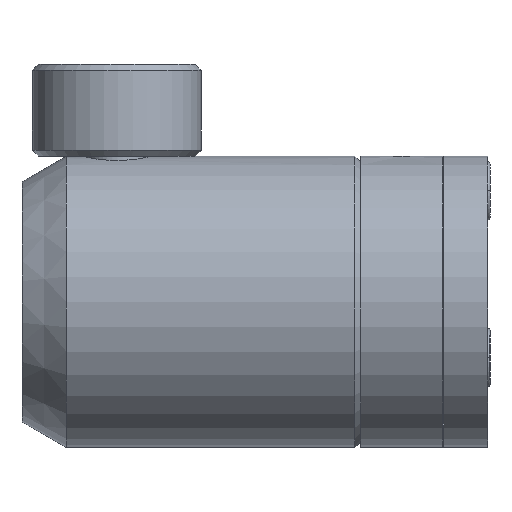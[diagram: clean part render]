
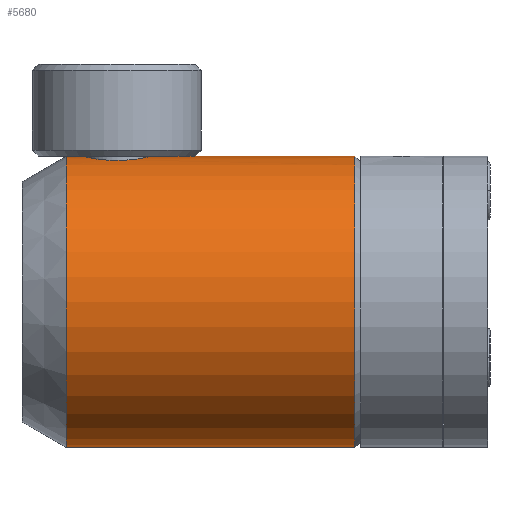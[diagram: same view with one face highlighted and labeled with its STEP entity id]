
A CAD part, left-side view. The second image highlights one B-rep face of the part: STEP entity #5680.
In plain terms, the highlighted cylindrical face has radius 12.497 mm (diameter 24.994 mm), a partial arc.
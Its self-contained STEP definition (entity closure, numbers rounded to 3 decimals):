
#3619=DIRECTION('',(0.,1.,0.));
#3620=VECTOR('',#3619,17.402);
#3621=CARTESIAN_POINT('',(-28.909,-2.492,
23.27));
#3622=LINE('',#3621,#3620);
#3623=CARTESIAN_POINT('',(-28.909,14.91,23.27));
#3655=DIRECTION('',(0.,-1.,0.));
#3656=VECTOR('',#3655,24.72);
#3657=CARTESIAN_POINT('',(-28.909,22.228,
-1.723));
#3658=LINE('',#3657,#3656);
#3667=CARTESIAN_POINT('',(-28.909,-2.492,
10.773));
#3668=DIRECTION('',(0.,1.,0.));
#3669=DIRECTION('',(0.,0.,-1.));
#3670=AXIS2_PLACEMENT_3D('',#3667,#3668,#3669);
#3672=DIRECTION('',(0.,-1.,0.));
#3673=VECTOR('',#3672,1.318);
#3674=CARTESIAN_POINT('',(-28.909,22.228,23.27));
#3675=LINE('',#3674,#3673);
#3676=CARTESIAN_POINT('',(-28.909,20.91,23.27));
#3677=CARTESIAN_POINT('',(-29.104,20.91,23.27));
#3678=CARTESIAN_POINT('',(-29.489,20.872,23.261));
#3679=CARTESIAN_POINT('',(-30.059,20.701,23.221));
#3680=CARTESIAN_POINT('',(-30.583,20.422,23.161));
#3681=CARTESIAN_POINT('',(-31.046,20.042,23.089));
#3682=CARTESIAN_POINT('',(-31.422,19.583,23.016));
#3683=CARTESIAN_POINT('',(-31.702,19.056,22.955));
#3684=CARTESIAN_POINT('',(-31.871,18.489,22.914));
#3685=CARTESIAN_POINT('',(-31.909,18.105,22.905));
#3686=CARTESIAN_POINT('',(-31.909,17.91,22.905));
#3688=CARTESIAN_POINT('',(-31.909,17.91,22.905));
#3689=CARTESIAN_POINT('',(-31.909,17.714,22.905));
#3690=CARTESIAN_POINT('',(-31.871,17.33,22.914));
#3691=CARTESIAN_POINT('',(-31.702,16.762,22.955));
#3692=CARTESIAN_POINT('',(-31.422,16.236,23.016));
#3693=CARTESIAN_POINT('',(-31.046,15.777,23.089));
#3694=CARTESIAN_POINT('',(-30.583,15.397,23.161));
#3695=CARTESIAN_POINT('',(-30.06,15.118,23.221));
#3696=CARTESIAN_POINT('',(-29.489,14.947,23.261));
#3697=CARTESIAN_POINT('',(-29.104,14.91,23.27));
#3698=CARTESIAN_POINT('',(-28.909,14.91,23.27));
#3704=CARTESIAN_POINT('',(-28.909,22.228,10.773));
#3705=DIRECTION('',(0.,1.,0.));
#3706=DIRECTION('',(0.,0.,-1.));
#3707=AXIS2_PLACEMENT_3D('',#3704,#3705,#3706);
#5482=CARTESIAN_POINT('',(-28.909,22.228,23.27));
#5483=VERTEX_POINT('',#5482);
#5484=CARTESIAN_POINT('',(-28.909,22.228,
-1.723));
#5485=VERTEX_POINT('',#5484);
#5498=VERTEX_POINT('',#3623);
#5500=VERTEX_POINT('',#3676);
#5501=VERTEX_POINT('',#3686);
#5595=CARTESIAN_POINT('',(-28.909,-2.492,
23.27));
#5596=CARTESIAN_POINT('',(-28.909,-2.492,
-1.723));
#5597=VERTEX_POINT('',#5595);
#5598=VERTEX_POINT('',#5596);
#5663=CARTESIAN_POINT('',(-28.909,26.038,10.773));
#5664=DIRECTION('',(0.,-1.,0.));
#5665=DIRECTION('',(0.,0.,-1.));
#5666=AXIS2_PLACEMENT_3D('',#5663,#5664,#5665);
#5667=CYLINDRICAL_SURFACE('',#5666,12.497);
#5668=ORIENTED_EDGE('',*,*,#5654,.F.);
#5669=ORIENTED_EDGE('',*,*,#5629,.F.);
#5671=ORIENTED_EDGE('',*,*,#5670,.T.);
#5672=ORIENTED_EDGE('',*,*,#5625,.T.);
#5674=ORIENTED_EDGE('',*,*,#5673,.T.);
#5676=ORIENTED_EDGE('',*,*,#5675,.T.);
#5677=ORIENTED_EDGE('',*,*,#5619,.F.);
#5678=EDGE_LOOP('',(#5668,#5669,#5671,#5672,#5674,#5676,#5677));
#5679=FACE_OUTER_BOUND('',#5678,.F.);
#5680=ADVANCED_FACE('',(#5679),#5667,.T.);
#3671=CIRCLE('',#3670,12.497);
#3687=B_SPLINE_CURVE_WITH_KNOTS('',3,(#3676,#3677,#3678,#3679,#3680,#3681,#3682,
#3683,#3684,#3685,#3686),.UNSPECIFIED.,.F.,.F.,(4,1,1,1,1,1,1,1,4),(0.,
0.125,0.25,0.375,0.5,0.625,0.75,0.875,1.),.UNSPECIFIED.);
#3699=B_SPLINE_CURVE_WITH_KNOTS('',3,(#3688,#3689,#3690,#3691,#3692,#3693,#3694,
#3695,#3696,#3697,#3698),.UNSPECIFIED.,.F.,.F.,(4,1,1,1,1,1,1,1,4),(0.,
0.125,0.25,0.375,0.5,0.625,0.75,0.875,1.),.UNSPECIFIED.);
#3708=CIRCLE('',#3707,12.497);
#5619=EDGE_CURVE('',#5597,#5498,#3622,.T.);
#5625=EDGE_CURVE('',#5483,#5500,#3675,.T.);
#5629=EDGE_CURVE('',#5485,#5598,#3658,.T.);
#5654=EDGE_CURVE('',#5598,#5597,#3671,.T.);
#5670=EDGE_CURVE('',#5485,#5483,#3708,.T.);
#5673=EDGE_CURVE('',#5500,#5501,#3687,.T.);
#5675=EDGE_CURVE('',#5501,#5498,#3699,.T.);
